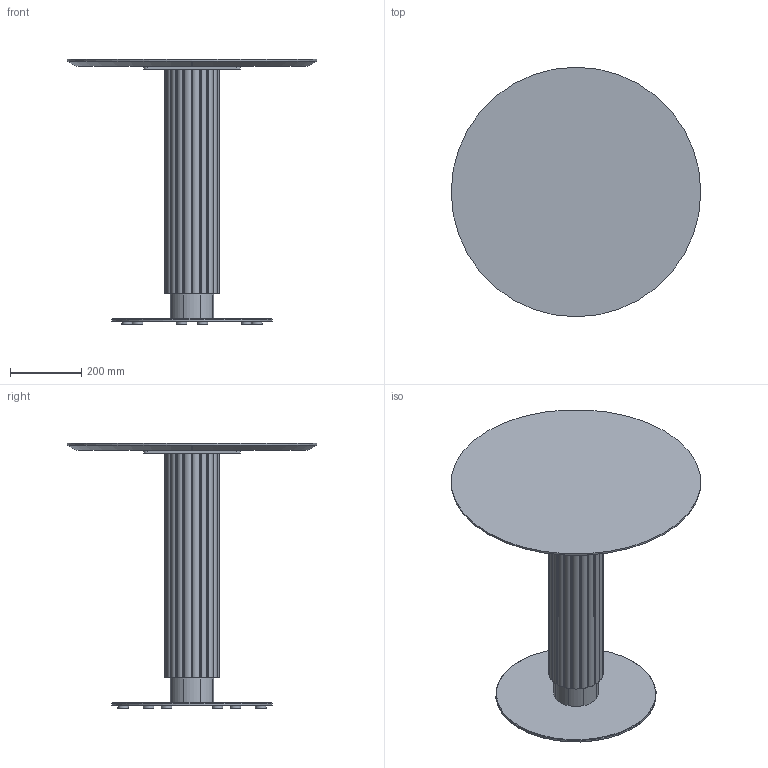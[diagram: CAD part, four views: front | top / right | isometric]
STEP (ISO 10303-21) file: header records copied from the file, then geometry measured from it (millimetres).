
FILE_DESCRIPTION( ('This file contains a STEP AP42 implementation' ,'as created by ZW3D STEP Interface translator.') ,'2;1' );
FILE_NAME( 'God - B_Rond - F1 - M5 - 700 x 700 x 750.stp' ,'24 912.113919', (''), ('ZWCAD Software Co.'), 'Version 1.0', 'ZW3D to STEP translator', '' );
FILE_SCHEMA(('AUTOMOTIVE_DESIGN { 1 0 10303 214 1 1 1 1 }'));
Length unit declared in the file: millimetre
Products named in the file (15): 0; PIED BISTROT PARAMETRIQUE_; SOCLE ACIER C Ø450 V.02_; SCL-D450-02_; PLA-R30A-01_; PLA-R30A-01; CROIX ACIER 370 V.02_; CRX-X370-02_; COLONNE ACIER Ø48.5 V.02_; TUB-D048-02_; PLA-R48A-01_; Colonne GODRON H700_; WUERTH 0276063020 Euro-screw 6.3x2 Verzinkt_; PLATEAU BISTROT PARAMETRIQUE_; insert_m6_13_
Assembly tree (25 placements, depth 3):
  0
  PIED BISTROT PARAMETRIQUE_
    SOCLE ACIER C Ø450 V.02_
      SCL-D450-02_
      PLA-R30A-01_
      PLA-R30A-01  x5
    CROIX ACIER 370 V.02_
      CRX-X370-02_
    COLONNE ACIER Ø48.5 V.02_
      TUB-D048-02_
      PLA-R48A-01_  x2
    Colonne GODRON H700_
    WUERTH 0276063020 Euro-screw 6.3x2 Verzinkt_
    PLATEAU BISTROT PARAMETRIQUE_
      insert_m6_13_  x8
Bounding box: 700 x 700 x 744 mm (x, y, z)
Volume: 19625158.5 mm3; surface area: 2539397.8 mm2
Topology: 29 solids, 29 shells, 648 faces, 1609 edges, 1034 vertices
Faces by surface type: plane 290, cylinder 193, bspline 121, cone 43, torus 1
Full cylindrical faces by diameter (mm): 4.88 x1, 6 x8, 6.3 x1, 8 x47, 12 x2, 14 x2, 30 x6, 44.5 x3, 48.5 x1, 450 x1
Entity records: 16030 total; most frequent: CARTESIAN_POINT 4007, DIRECTION 2213, ORIENTED_EDGE 2208, EDGE_CURVE 1104, AXIS2_PLACEMENT_3D 788, VERTEX_POINT 720, VECTOR 637, LINE 637
